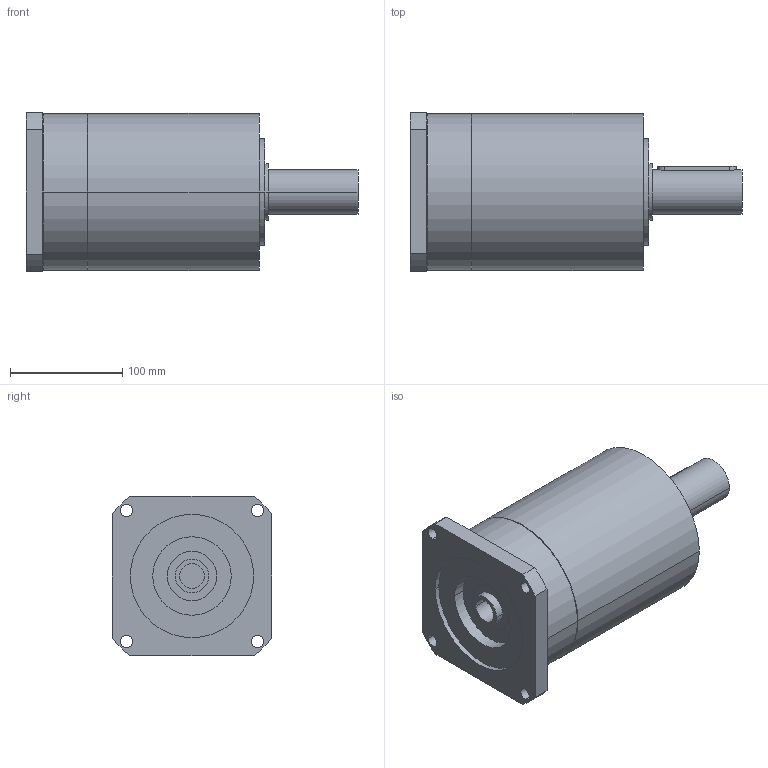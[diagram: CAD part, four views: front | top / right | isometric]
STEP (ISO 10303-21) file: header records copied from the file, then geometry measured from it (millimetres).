
FILE_DESCRIPTION(('CoCreate Modeling STEP Export'),'2;1');
FILE_NAME('GPR150_ig-9-12-16-20-28-35_40_B14_22_P14.stp','2014-08-26T15:30:43',(''),(''),'CoCreate Modeling STEP processor for AP214 (Solid Model)','CoCreate Modeling 16.00C 25-Feb-2009 (C) Parametric Technology GmbH','');
FILE_SCHEMA(('AUTOMOTIVE_DESIGN { 1 0 10303 214 1 1 1 1 }'));
Length unit declared in the file: millimetre
Products named in the file (2): GPR150_ig-9-12-16-20-28-35_40_B14_22_P14
Assembly tree (1 placements, depth 2):
  GPR150_ig-9-12-16-20-28-35_40_B14_22_P14
    GPR150_ig-9-12-16-20-28-35_40_B14_22_P14
Bounding box: 296 x 142 x 142 mm (x, y, z)
Volume: 3293164.6 mm3; surface area: 159886.2 mm2
Topology: 1 solids, 1 shells, 73 faces, 193 edges, 135 vertices
Faces by surface type: cylinder 44, plane 23, cone 6
Entity records: 2028 total; most frequent: CARTESIAN_POINT 394, ORIENTED_EDGE 382, DIRECTION 274, EDGE_CURVE 191, VERTEX_POINT 135, AXIS2_PLACEMENT_3D 103, EDGE_LOOP 96, FACE_OUTER_BOUND 73
